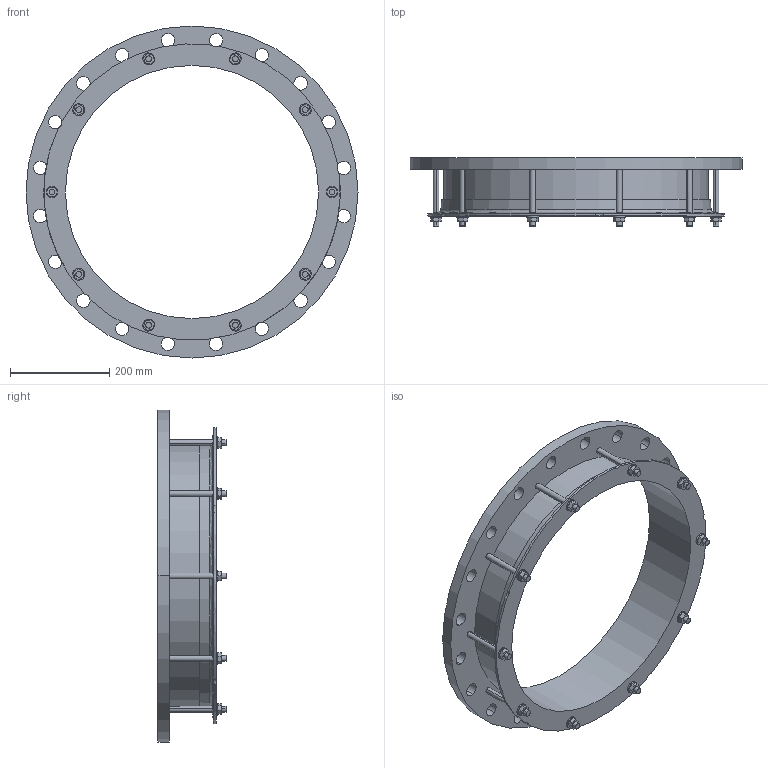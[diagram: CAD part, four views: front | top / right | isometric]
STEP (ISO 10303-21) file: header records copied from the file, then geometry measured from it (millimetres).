
FILE_DESCRIPTION((''),'2;1');
FILE_NAME('508X500PN10_5NOT','2019-01-16T',('mfairey'),('Glynwed Pipe Systems'),'CREO PARAMETRIC BY PTC INC, 2016130','CREO PARAMETRIC BY PTC INC, 2016130','');
FILE_SCHEMA(('CONFIG_CONTROL_DESIGN'));
Length unit declared in the file: millimetre
Products named in the file (1): 508X500PN10_5NOT
Bounding box: 670 x 137.45 x 670 mm (x, y, z)
Volume: 5627434.7 mm3; surface area: 854499.5 mm2
Topology: 1 solids, 1 shells, 216 faces, 574 edges, 382 vertices
Faces by surface type: cylinder 116, plane 94, cone 4, torus 2
Entity records: 7528 total; most frequent: CARTESIAN_POINT 1849, DIRECTION 1182, ORIENTED_EDGE 1148, EDGE_CURVE 574, AXIS2_PLACEMENT_3D 441, VERTEX_POINT 382, VECTOR 300, LINE 300
